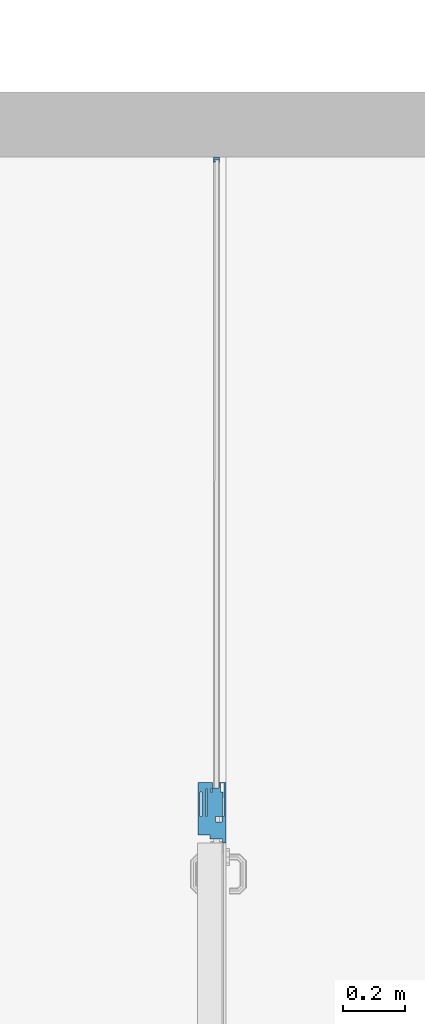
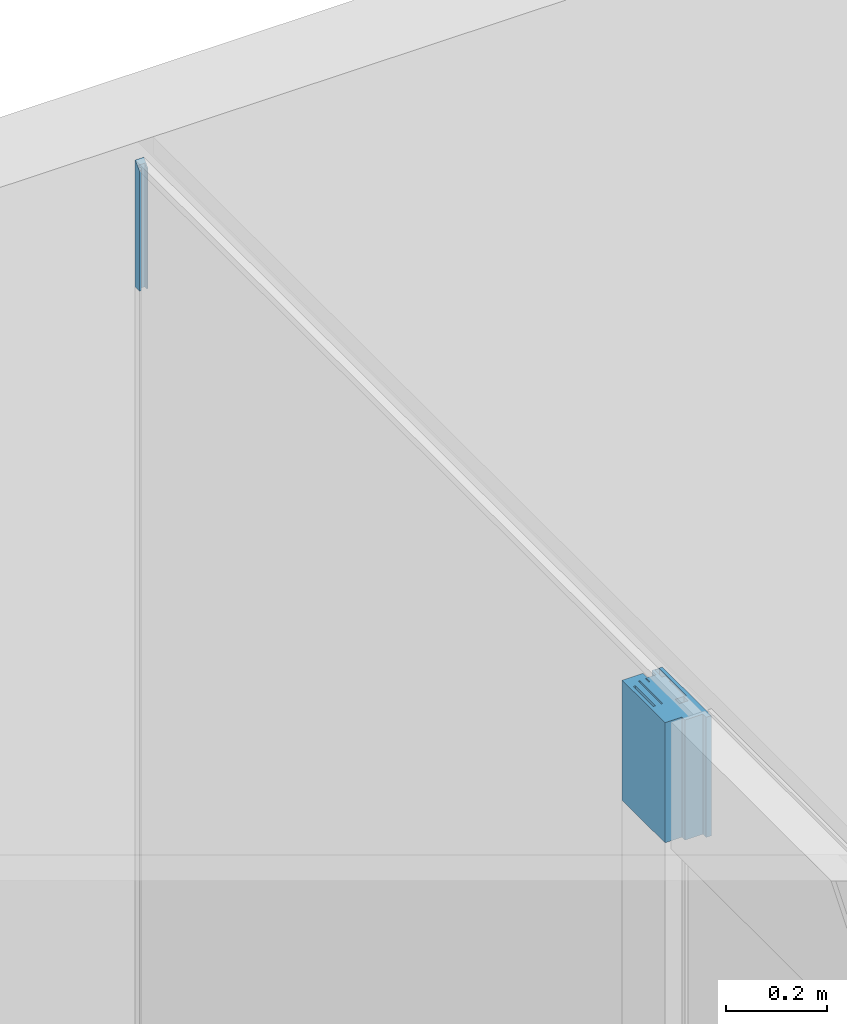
# One storey, part 18 of 79: 2 members, 1 element without a shape of its own.
"""IFC2X3 building model written with IfcOpenShell, lengths in millimetres."""

from ifc_helpers import new_model, entity, si_unit, converted_unit, derived_unit, money_unit, direction, frame, origin_with_axes, place, context, subcontext, project, spatial, faceted_brep, source, transform, mapped, material, material_list, type_object, element, aggregate, save


model = new_model("IFC2X3")

# Units and contexts
model_context = context("Model", 3, precision=0.01, world=origin_with_axes(), true_north=direction((0.0, 1.0)))
body_context = subcontext(model_context, "Body", "Model", "MODEL_VIEW")
ifc_project = project(units=[si_unit("LENGTHUNIT", "METRE", prefix="MILLI"), si_unit("AREAUNIT", "SQUARE_METRE"), si_unit("VOLUMEUNIT", "CUBIC_METRE"), converted_unit("PLANEANGLEUNIT", "DEGREE", entity("IfcPlaneAngleMeasure", 0.0174532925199), si_unit("PLANEANGLEUNIT", "RADIAN"), dimensions=[0, 0, 0, 0, 0, 0, 0]), si_unit("SOLIDANGLEUNIT", "STERADIAN"), money_unit("EUR"), converted_unit("TIMEUNIT", "Year", entity("IfcTimeMeasure", 31556926.0), si_unit("TIMEUNIT", "SECOND"), dimensions=[0, 0, 1, 0, 0, 0, 0]), si_unit("MASSUNIT", "GRAM", prefix="KILO"), si_unit("THERMODYNAMICTEMPERATUREUNIT", "DEGREE_CELSIUS"), si_unit("LUMINOUSINTENSITYUNIT", "LUMEN"), si_unit("ENERGYUNIT", "JOULE", prefix="MEGA"), derived_unit("THERMALCONDUCTANCEUNIT", [(si_unit("POWERUNIT", "WATT"), 1), (si_unit("LENGTHUNIT", "METRE"), -1), (si_unit("THERMODYNAMICTEMPERATUREUNIT", "KELVIN"), -1)]), derived_unit("SPECIFICHEATCAPACITYUNIT", [(si_unit("ENERGYUNIT", "JOULE"), 1), (si_unit("MASSUNIT", "GRAM", prefix="KILO"), -1), (si_unit("THERMODYNAMICTEMPERATUREUNIT", "KELVIN"), -1)]), derived_unit("MASSDENSITYUNIT", [(si_unit("MASSUNIT", "GRAM", prefix="KILO"), 1), (si_unit("VOLUMEUNIT", "CUBIC_METRE"), -1)])], contexts=[model_context])

# Site, building, storey
site_placement = place(None, origin_with_axes())
site = spatial("IfcSite", under=ifc_project, at=site_placement, Name="L.Koidula tn 11b", CompositionType="ELEMENT")
building_placement = place(site_placement, origin_with_axes())
building = spatial("IfcBuilding", under=site, at=building_placement, Name="Rakvere Riigigümnaasium", CompositionType="ELEMENT")
storey_placement = place(building_placement, frame((0.0, 0.0, 3720.0), z_axis=(0.0, 0.0, 1.0), x_axis=(1.0, 0.0, 0.0)))
storey = spatial("IfcBuildingStorey", under=building, at=storey_placement, Name="2.korrus +3,72", CompositionType="ELEMENT", Elevation=3720.0)

# Curtain wall, members
curtain_wall_type = type_object("IfcCurtainWallType", Name="Curtain Wall Type", PredefinedType="NOTDEFINED")
curtain_wall_placement = place(storey_placement, frame((41130.915445, 28609.9592257, 0.0), z_axis=(0.0, 0.0, 1.0), x_axis=(1.0, 0.0, 0.0)))
curtain_wall = element("IfcCurtainWall", 1, at=curtain_wall_placement, inside=storey, type_object=curtain_wall_type, Name="SKLF-16")
ifc_material_1 = material(Name="Klaasvill")
ifc_material_2 = material(Name="Alumiiniumprofiil")
ifc_material_list_1 = material_list([ifc_material_1, ifc_material_2])
member_type_1 = type_object("IfcMemberType", Name="Boundary Frame 17 x 1", PredefinedType="MULLION")
shared_shape_1 = source(origin_with_axes(), body_context, "Body", "Brep", [
    faceted_brep([(-2.00001937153, -5.0, 0.0), (-2.00001937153, -5.0, 305.999980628), (-8.35001937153, -5.0, 299.649980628), (-8.35001937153, -5.0, 0.0), (-2.00001937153, 9.01614452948, 0.0), (-2.00001937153, 9.01614452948, 305.999980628), (-8.35001937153, 9.01614452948, 299.649980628), (-8.35001937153, 9.01614452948, 0.0)], [[[0, 1, 2, 3]], [[4, 5, 1, 0]], [[1, 5, 6, 2]], [[3, 2, 6, 7]], [[0, 3, 7, 4]], [[7, 6, 5, 4]]]),
    faceted_brep([(-11.987414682, 9.01614444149, 0.0), (-11.987414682, 9.01614444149, 296.012585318), (-12.004489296, 7.03075035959, 295.995510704), (-12.004489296, 7.03075035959, 0.0), (-15.5126239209, 9.01614444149, 0.0), (-15.5126239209, 9.01614444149, 292.487376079), (-15.7655837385, 8.03853257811, 292.234416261), (-15.4955493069, 7.03075035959, 292.504450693), (-14.75780152, 6.29300257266, 293.24219848), (-13.7500193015, 6.02296814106, 294.249980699), (-12.742237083, 6.29300257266, 295.257762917), (-12.742237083, 6.29300257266, 0.0), (-13.7500193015, 6.02296814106, 0.0), (-14.75780152, 6.29300257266, 0.0), (-15.4955493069, 7.03075035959, 0.0), (-15.7655837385, 8.03853257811, 0.0)], [[[0, 1, 2, 3]], [[4, 5, 1, 0]], [[1, 5, 6, 7, 8, 9, 10, 2]], [[3, 2, 10, 11]], [[0, 3, 11, 12, 13, 14, 15, 4]], [[15, 6, 5, 4]], [[14, 7, 6, 15]], [[13, 8, 7, 14]], [[12, 9, 8, 13]], [[11, 10, 9, 12]]]),
    faceted_brep([(0.0, -8.0, 0.0), (0.0, -8.0, 308.0), (-17.0000193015, -8.0, 290.999980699), (-17.0000193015, -8.0, 0.0), (0.0, 12.0, 0.0), (0.0, 12.0, 308.0), (-17.0000193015, 12.0, 290.999980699), (-17.0000193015, 9.01614444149, 290.999980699), (-15.5126239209, 9.01614444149, 292.487376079), (-11.987414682, 9.01614444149, 296.012585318), (-8.35001937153, 9.01614452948, 299.649980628), (-2.00001930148, 9.01614444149, 305.999980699), (-2.00001930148, -5.0, 305.999980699), (-8.35001937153, -5.0, 299.649980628), (-17.0000193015, -5.0, 290.999980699), (-17.0000193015, -5.0, 0.0), (-8.35001937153, -5.0, 0.0), (-2.00001930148, -5.0, 0.0), (-2.00001930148, 9.01614444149, 0.0), (-8.35001937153, 9.01614452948, 0.0), (-11.987414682, 9.01614444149, 0.0), (-15.5126239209, 9.01614444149, 0.0), (-17.0000193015, 9.01614444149, 0.0), (-17.0000193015, 12.0, 0.0)], [[[0, 1, 2, 3]], [[4, 5, 1, 0]], [[1, 5, 6, 7, 8, 9, 10, 11, 12, 13, 14, 2]], [[3, 2, 14, 15]], [[0, 3, 15, 16, 17, 18, 19, 20, 21, 22, 23, 4]], [[23, 6, 5, 4]], [[22, 7, 6, 23]], [[21, 8, 7, 22]], [[20, 9, 8, 21]], [[19, 10, 9, 20]], [[18, 11, 10, 19]], [[17, 12, 11, 18]], [[16, 13, 12, 17]], [[15, 14, 13, 16]]]),
])
member_1_placement = place(curtain_wall_placement, frame((0.112948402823, 2680.49749378, 2200.0), z_axis=(0.0, 0.0, 1.0), x_axis=(-4.21371043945e-05, -0.999999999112, 0.0)))
member_1 = element("IfcMember", 2, at=member_1_placement, type_object=member_type_1, material=ifc_material_list_1, Name="PV-SKLF-42-raam", ObjectType="MULLION", context=body_context, shape_type="MappedRepresentation", body=[
    mapped(shared_shape_1, transform((0.0, 0.0, 0.0), x_axis=(-1.0, 0.0, 0.0), y_axis=(0.0, -1.0, 0.0), z_axis=(0.0, 0.0, 1.0))),
])
ifc_material_3 = material(Name="Puit")
ifc_material_4 = material(Name="MDF")
ifc_material_list_2 = material_list([ifc_material_3, ifc_material_4, ifc_material_1, ifc_material_2])
member_type_2 = type_object("IfcMemberType", Name="Siseklaasfassaad - Ukseraam-2 195 x 29", PredefinedType="MULLION")
shared_shape_2 = source(origin_with_axes(), body_context, "Body", "Brep", [
    faceted_brep([(0.0, 50.8404412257, 0.0), (0.0, 50.8404412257, 290.999980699), (0.0, -15.2764635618, 290.999980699), (0.0, -15.2764635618, 0.0), (-29.9999995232, 50.8404412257, 0.0), (-29.9999995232, 50.8404412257, 290.999980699), (-30.0000008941, 23.8404411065, 290.999980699), (-41.9954210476, 23.8404411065, 290.999980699), (-41.9954210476, -8.15955847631, 290.999980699), (-41.9954210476, -15.2764635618, 290.999980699), (-41.8573788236, -15.2764635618, 290.999980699), (-41.8573788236, -15.2764635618, 0.0), (-41.9954210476, -15.2764635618, 0.0), (-41.9954210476, -8.15955847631, 0.0), (-41.9954210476, 23.8404411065, 0.0), (-30.0000008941, 23.8404411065, 0.0)], [[[0, 1, 2, 3]], [[4, 5, 1, 0]], [[1, 5, 6, 7, 8, 9, 10, 2]], [[3, 2, 10, 11]], [[0, 3, 11, 12, 13, 14, 15, 4]], [[15, 6, 5, 4]], [[14, 7, 6, 15]], [[13, 8, 7, 14]], [[12, 9, 8, 13]], [[11, 10, 9, 12]]]),
    faceted_brep([(137.859682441, -21.159534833, 0.0), (137.859682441, -21.159534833, 290.999980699), (137.859682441, -29.159535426, 290.999980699), (137.859682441, -29.159535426, 0.0), (30.0029064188, -21.1595377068, 0.0), (30.0029064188, -21.1595377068, 290.999980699), (-52.9999994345, -21.1595377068, 290.999980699), (-52.9999994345, -29.1595584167, 290.999980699), (-52.9999994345, -29.1595584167, 0.0), (-52.9999994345, -21.1595377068, 0.0)], [[[0, 1, 2, 3]], [[4, 5, 1, 0]], [[1, 5, 6, 7, 2]], [[3, 2, 7, 8]], [[0, 3, 8, 9, 4]], [[9, 6, 5, 4]], [[8, 7, 6, 9]]]),
    faceted_brep([(137.859682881, 54.8404422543, 0.0), (137.859682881, 54.8404422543, 290.999980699), (121.188402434, 54.8405744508, 290.999980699), (121.188402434, 54.8405744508, 0.0), (137.859682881, 62.8404399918, 0.0), (137.859682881, 62.8404399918, 290.999980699), (-28.0000003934, 62.8404428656, 290.999980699), (-28.0000003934, 54.8404422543, 290.999980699), (-1.12771575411e-06, 54.8404422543, 290.999980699), (30.0029066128, 54.8404422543, 290.999980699), (109.859683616, 54.8405744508, 290.999980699), (109.859683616, 54.8405744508, 0.0), (30.0029066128, 54.8404422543, 0.0), (-1.12771575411e-06, 54.8404422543, 0.0), (-28.0000003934, 54.8404422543, 0.0), (-28.0000003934, 62.8404428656, 0.0)], [[[0, 1, 2, 3]], [[4, 5, 1, 0]], [[1, 5, 6, 7, 8, 9, 10, 2]], [[3, 2, 10, 11]], [[0, 3, 11, 12, 13, 14, 15, 4]], [[15, 6, 5, 4]], [[14, 7, 6, 15]], [[13, 8, 7, 14]], [[12, 9, 8, 13]], [[11, 10, 9, 12]]]),
    faceted_brep([(120.859682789, 33.3330734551, 0.0), (120.859682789, 33.3330734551, 290.999980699), (120.859682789, 20.34054937, 290.999980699), (120.859682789, 20.34054937, 0.0), (30.0029064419, 33.3311238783, 0.0), (30.0029064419, 33.3311238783, 290.999980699), (30.0029050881, 20.3386011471, 290.999980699), (107.859682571, 20.338601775, 290.999980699), (107.859682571, 20.338601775, 0.0), (30.0029050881, 20.3386011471, 0.0)], [[[0, 1, 2, 3]], [[4, 5, 1, 0]], [[1, 5, 6, 7, 2]], [[3, 2, 7, 8]], [[0, 3, 8, 9, 4]], [[9, 6, 5, 4]], [[8, 7, 6, 9]]]),
    faceted_brep([(120.859682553, 49.8405506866, 0.0), (120.859682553, 49.8405506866, 290.999980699), (120.859682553, 36.8405491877, 290.999980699), (120.859682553, 36.8405491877, 0.0), (109.8596833, 49.8405506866, 0.0), (109.8596833, 49.8405506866, 290.999980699), (30.0046927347, 49.8404410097, 290.999980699), (30.0046927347, 36.8404411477, 290.999980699), (30.0046927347, 36.8404411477, 0.0), (30.0046927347, 49.8404410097, 0.0)], [[[0, 1, 2, 3]], [[4, 5, 1, 0]], [[1, 5, 6, 7, 2]], [[3, 2, 7, 8]], [[0, 3, 8, 9, 4]], [[9, 6, 5, 4]], [[8, 7, 6, 9]]]),
    faceted_brep([(107.859682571, 20.338601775, 0.0), (107.859682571, 20.338601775, 290.999980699), (107.859682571, -5.15955767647, 290.999980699), (107.859682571, -5.15955767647, 0.0), (30.0029050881, 20.338601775, 0.0), (30.0029050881, 20.338601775, 290.999980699), (30.0029050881, 5.24044086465, 290.999980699), (30.0029050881, -15.1595587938, 290.999980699), (30.0029050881, -17.1595580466, 290.999980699), (89.8596820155, -17.1595604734, 290.999980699), (107.859682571, -17.1595604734, 290.999980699), (107.859682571, -11.1594268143, 290.999980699), (107.859682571, -11.1594268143, 0.0), (107.859682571, -17.1595604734, 0.0), (89.8596820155, -17.1595604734, 0.0), (30.0029050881, -17.1595580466, 0.0), (30.0029050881, -15.1595587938, 0.0), (30.0029050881, 5.24044086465, 0.0)], [[[0, 1, 2, 3]], [[4, 5, 1, 0]], [[1, 5, 6, 7, 8, 9, 10, 11, 2]], [[3, 2, 11, 12]], [[0, 3, 12, 13, 14, 15, 16, 17, 4]], [[17, 6, 5, 4]], [[16, 7, 6, 17]], [[15, 8, 7, 16]], [[14, 9, 8, 15]], [[13, 10, 9, 14]], [[12, 11, 10, 13]]]),
    faceted_brep([(30.0029058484, 54.8404413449, 0.0), (30.0029058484, 54.8404413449, 290.999980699), (30.0046927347, 49.8404410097, 290.999980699), (30.0046927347, 49.8404410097, 0.0), (0.0, 54.8404413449, 0.0), (0.0, 54.8404413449, 290.999980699), (-27.9999994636, 54.8404413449, 290.999980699), (-27.9999994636, 62.8404415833, 290.999980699), (-29.9999995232, 62.8404415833, 290.999980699), (-29.9999995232, 54.8404413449, 290.999980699), (-29.9999995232, 50.8404412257, 290.999980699), (0.0, 50.8404412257, 290.999980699), (0.0, -15.2764635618, 290.999980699), (-41.8573788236, -15.2764635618, 290.999980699), (-41.8573788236, -17.1595580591, 290.999980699), (-54.9999995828, -17.1595580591, 290.999980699), (-54.9999995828, -20.2336043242, 290.999980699), (-54.9999995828, -29.1595584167, 290.999980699), (-53.0000007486, -29.1595584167, 290.999980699), (-53.0000007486, -21.1595363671, 290.999980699), (30.0029058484, -21.1595363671, 290.999980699), (30.0029050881, -17.1595580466, 290.999980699), (30.0029058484, -15.1595579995, 290.999980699), (12.999999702, -15.1595579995, 290.999980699), (12.999999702, 5.24044206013, 290.999980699), (30.0029058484, 5.24044206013, 290.999980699), (30.0029050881, 20.3386011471, 290.999980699), (30.0029064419, 33.3311238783, 290.999980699), (30.0046927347, 36.8404411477, 290.999980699), (30.0046927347, 36.8404411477, 0.0), (30.0029064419, 33.3311238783, 0.0), (30.0029050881, 20.3386011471, 0.0), (30.0029058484, 5.24044206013, 0.0), (12.999999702, 5.24044206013, 0.0), (12.999999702, -15.1595579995, 0.0), (30.0029058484, -15.1595579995, 0.0), (30.0029050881, -17.1595580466, 0.0), (30.0029058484, -21.1595363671, 0.0), (-53.0000007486, -21.1595363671, 0.0), (-53.0000007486, -29.1595584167, 0.0), (-54.9999995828, -29.1595584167, 0.0), (-54.9999995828, -20.2336043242, 0.0), (-54.9999995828, -17.1595580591, 0.0), (-41.8573788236, -17.1595580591, 0.0), (-41.8573788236, -15.2764635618, 0.0), (0.0, -15.2764635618, 0.0), (0.0, 50.8404412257, 0.0), (-29.9999995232, 50.8404412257, 0.0), (-29.9999995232, 54.8404413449, 0.0), (-29.9999995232, 62.8404415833, 0.0), (-27.9999994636, 62.8404415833, 0.0), (-27.9999994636, 54.8404413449, 0.0)], [[[0, 1, 2, 3]], [[4, 5, 1, 0]], [[1, 5, 6, 7, 8, 9, 10, 11, 12, 13, 14, 15, 16, 17, 18, 19, 20, 21, 22, 23, 24, 25, 26, 27, 28, 2]], [[3, 2, 28, 29]], [[0, 3, 29, 30, 31, 32, 33, 34, 35, 36, 37, 38, 39, 40, 41, 42, 43, 44, 45, 46, 47, 48, 49, 50, 51, 4]], [[51, 6, 5, 4]], [[50, 7, 6, 51]], [[49, 8, 7, 50]], [[48, 9, 8, 49]], [[47, 10, 9, 48]], [[46, 11, 10, 47]], [[45, 12, 11, 46]], [[44, 13, 12, 45]], [[43, 14, 13, 44]], [[42, 15, 14, 43]], [[41, 16, 15, 42]], [[40, 17, 16, 41]], [[39, 18, 17, 40]], [[38, 19, 18, 39]], [[37, 20, 19, 38]], [[36, 21, 20, 37]], [[35, 22, 21, 36]], [[34, 23, 22, 35]], [[33, 24, 23, 34]], [[32, 25, 24, 33]], [[31, 26, 25, 32]], [[30, 27, 26, 31]], [[29, 28, 27, 30]]]),
    faceted_brep([(139.859682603, 62.8404415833, 0.0), (139.859682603, 62.8404415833, 290.999980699), (139.859682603, 15.2404414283, 290.999980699), (139.859682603, 15.2404414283, 0.0), (137.859683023, 62.8404415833, 0.0), (137.859683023, 62.8404415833, 290.999980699), (137.859681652, 54.8405734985, 290.999980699), (121.188400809, 54.8405734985, 290.999980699), (109.859683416, 54.8405734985, 290.999980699), (109.859683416, 53.8404414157, 290.999980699), (109.859683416, 49.8405505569, 290.999980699), (120.859681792, 49.8405505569, 290.999980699), (120.859682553, 36.8405491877, 290.999980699), (120.859682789, 33.3330734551, 290.999980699), (120.859682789, 20.34054937, 290.999980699), (120.859681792, 17.2404410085, 290.999980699), (107.859682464, 17.2404410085, 290.999980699), (107.859682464, -5.1595578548, 290.999980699), (107.859682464, -11.1594263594, 290.999980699), (107.859682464, -17.1595594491, 290.999980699), (89.8596821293, -17.1595594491, 290.999980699), (89.8596821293, -19.1595576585, 290.999980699), (107.859682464, -19.1595576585, 290.999980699), (109.859682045, -19.1595576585, 290.999980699), (109.859682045, -17.1595594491, 290.999980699), (109.859682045, -11.1594263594, 290.999980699), (137.859681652, -11.1594263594, 290.999980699), (137.859682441, -21.159534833, 290.999980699), (137.859681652, -29.1595363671, 290.999980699), (139.859682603, -29.1595363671, 290.999980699), (139.859682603, -5.1595578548, 290.999980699), (137.859681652, -5.1595578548, 290.999980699), (122.859682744, -5.1595578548, 290.999980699), (122.859682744, 15.2404414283, 290.999980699), (122.859682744, 15.2404414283, 0.0), (122.859682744, -5.1595578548, 0.0), (137.859681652, -5.1595578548, 0.0), (139.859682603, -5.1595578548, 0.0), (139.859682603, -29.1595363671, 0.0), (137.859681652, -29.1595363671, 0.0), (137.859682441, -21.159534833, 0.0), (137.859681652, -11.1594263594, 0.0), (109.859682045, -11.1594263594, 0.0), (109.859682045, -17.1595594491, 0.0), (109.859682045, -19.1595576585, 0.0), (107.859682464, -19.1595576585, 0.0), (89.8596821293, -19.1595576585, 0.0), (89.8596821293, -17.1595594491, 0.0), (107.859682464, -17.1595594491, 0.0), (107.859682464, -11.1594263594, 0.0), (107.859682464, -5.1595578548, 0.0), (107.859682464, 17.2404410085, 0.0), (120.859681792, 17.2404410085, 0.0), (120.859682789, 20.34054937, 0.0), (120.859682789, 33.3330734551, 0.0), (120.859682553, 36.8405491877, 0.0), (120.859681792, 49.8405505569, 0.0), (109.859683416, 49.8405505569, 0.0), (109.859683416, 53.8404414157, 0.0), (109.859683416, 54.8405734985, 0.0), (121.188400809, 54.8405734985, 0.0), (137.859681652, 54.8405734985, 0.0)], [[[0, 1, 2, 3]], [[4, 5, 1, 0]], [[1, 5, 6, 7, 8, 9, 10, 11, 12, 13, 14, 15, 16, 17, 18, 19, 20, 21, 22, 23, 24, 25, 26, 27, 28, 29, 30, 31, 32, 33, 2]], [[3, 2, 33, 34]], [[0, 3, 34, 35, 36, 37, 38, 39, 40, 41, 42, 43, 44, 45, 46, 47, 48, 49, 50, 51, 52, 53, 54, 55, 56, 57, 58, 59, 60, 61, 4]], [[61, 6, 5, 4]], [[60, 7, 6, 61]], [[59, 8, 7, 60]], [[58, 9, 8, 59]], [[57, 10, 9, 58]], [[56, 11, 10, 57]], [[55, 12, 11, 56]], [[54, 13, 12, 55]], [[53, 14, 13, 54]], [[52, 15, 14, 53]], [[51, 16, 15, 52]], [[50, 17, 16, 51]], [[49, 18, 17, 50]], [[48, 19, 18, 49]], [[47, 20, 19, 48]], [[46, 21, 20, 47]], [[45, 22, 21, 46]], [[44, 23, 22, 45]], [[43, 24, 23, 44]], [[42, 25, 24, 43]], [[41, 26, 25, 42]], [[40, 27, 26, 41]], [[39, 28, 27, 40]], [[38, 29, 28, 39]], [[37, 30, 29, 38]], [[36, 31, 30, 37]], [[35, 32, 31, 36]], [[34, 33, 32, 35]]]),
])
member_2_placement = place(curtain_wall_placement, frame((0.021911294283, 519.999999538, 2200.0), z_axis=(0.0, 0.0, 1.0), x_axis=(-4.21371043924e-05, -0.999999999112, 0.0)))
member_2 = element("IfcMember", 3, at=member_2_placement, type_object=member_type_2, material=ifc_material_list_2, Name="Frame-Siseklaasf-012", ObjectType="MULLION", context=body_context, shape_type="MappedRepresentation", body=[
    mapped(shared_shape_2, transform((0.0, 0.0, 0.0), x_axis=(-1.0, 0.0, 0.0), y_axis=(0.0, -1.0, 0.0), z_axis=(0.0, 0.0, 1.0))),
])
aggregate(curtain_wall, [member_2, member_1])

save(model, "model.ifc")
